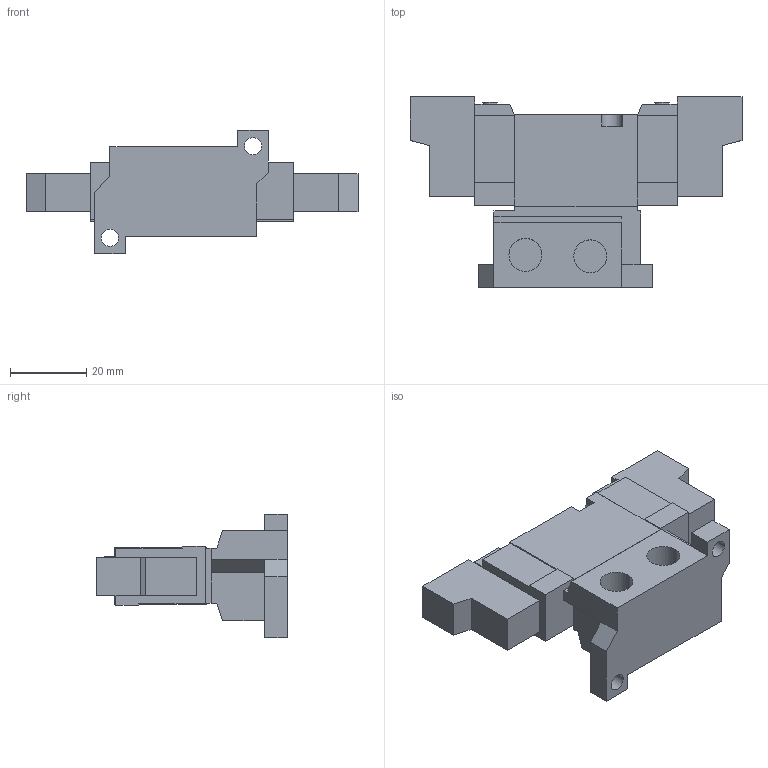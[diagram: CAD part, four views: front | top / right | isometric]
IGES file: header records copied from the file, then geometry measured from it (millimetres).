
Global section: file name: No Iges File Name specified; native system: AutoDesk Inventor R5.0; preprocessor: AutoDesk Inventor Iges Exporter R5.0; author: No Author specified; organization: No Organization specified; date: 20030118.204654; units: inch
Bounding box: 87 x 49.99 x 32.35 mm (x, y, z)
Volume: 42029.8 mm3; surface area: 12350.1 mm2
Topology: 1 solids, 1 shells, 111 faces, 290 edges, 187 vertices
Faces by surface type: plane 68, bspline 31, revolution 10, cylinder 2
